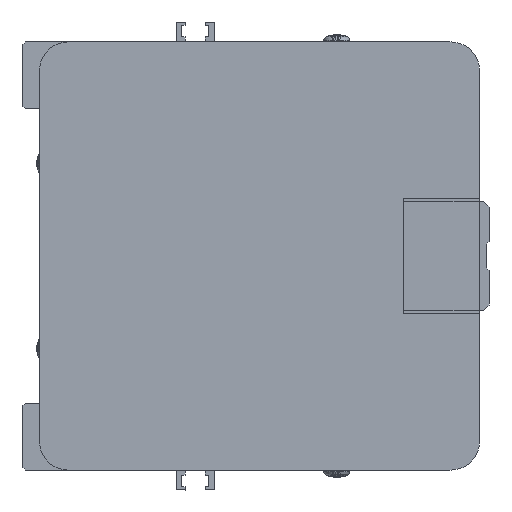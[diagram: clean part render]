
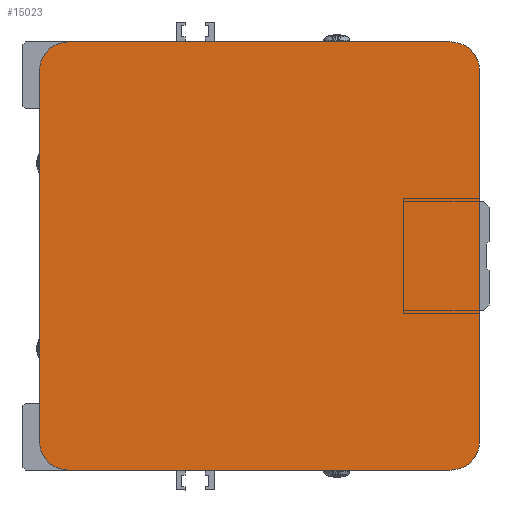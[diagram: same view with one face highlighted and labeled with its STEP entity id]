
A CAD part, left-side view. The second image highlights one B-rep face of the part: STEP entity #15023.
In plain terms, the highlighted planar face has unit normal (-1, 0, 0) as drawn and (0, 0, -1) by its records, which use the part's own axes.
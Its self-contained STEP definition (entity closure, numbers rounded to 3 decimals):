
#1183=CIRCLE('',#16015,6.);
#1185=CIRCLE('',#16020,6.);
#1186=CIRCLE('',#16026,6.);
#1187=CIRCLE('',#16028,6.);
#2086=FACE_OUTER_BOUND('',#2976,.T.);
#2976=EDGE_LOOP('',(#10502,#10503,#10504,#10505,#10506,#10507,#10508,#10509));
#4113=LINE('',#21526,#5358);
#4131=LINE('',#21565,#5376);
#4135=LINE('',#21577,#5380);
#4137=LINE('',#21584,#5382);
#5358=VECTOR('',#17595,78.);
#5376=VECTOR('',#17629,80.5);
#5380=VECTOR('',#17643,80.5);
#5382=VECTOR('',#17651,78.);
#6596=VERTEX_POINT('',#21520);
#6597=VERTEX_POINT('',#21524);
#6609=VERTEX_POINT('',#21562);
#6610=VERTEX_POINT('',#21564);
#6612=VERTEX_POINT('',#21573);
#6613=VERTEX_POINT('',#21575);
#6614=VERTEX_POINT('',#21579);
#6615=VERTEX_POINT('',#21583);
#8132=EDGE_CURVE('',#6597,#6596,#4113,.T.);
#8152=EDGE_CURVE('',#6609,#6610,#4131,.T.);
#8154=EDGE_CURVE('',#6610,#6597,#1183,.T.);
#8158=EDGE_CURVE('',#6613,#6612,#4135,.T.);
#8159=EDGE_CURVE('',#6612,#6614,#1185,.T.);
#8161=EDGE_CURVE('',#6614,#6615,#4137,.T.);
#8177=EDGE_CURVE('',#6615,#6609,#1186,.T.);
#8178=EDGE_CURVE('',#6596,#6613,#1187,.T.);
#10502=ORIENTED_EDGE('',*,*,#8159,.F.);
#10503=ORIENTED_EDGE('',*,*,#8158,.F.);
#10504=ORIENTED_EDGE('',*,*,#8178,.F.);
#10505=ORIENTED_EDGE('',*,*,#8132,.F.);
#10506=ORIENTED_EDGE('',*,*,#8154,.F.);
#10507=ORIENTED_EDGE('',*,*,#8152,.F.);
#10508=ORIENTED_EDGE('',*,*,#8177,.F.);
#10509=ORIENTED_EDGE('',*,*,#8161,.F.);
#14500=PLANE('',#16039);
#15023=ADVANCED_FACE('',(#2086),#14500,.T.);
#16015=AXIS2_PLACEMENT_3D('',#21568,#17633,#17634);
#16020=AXIS2_PLACEMENT_3D('',#21580,#17646,#17647);
#16026=AXIS2_PLACEMENT_3D('',#21612,#17675,#17676);
#16028=AXIS2_PLACEMENT_3D('',#21614,#17679,#17680);
#16039=AXIS2_PLACEMENT_3D('',#21633,#17706,#17707);
#17595=DIRECTION('',(1.,0.,0.));
#17629=DIRECTION('',(0.,-1.,0.));
#17633=DIRECTION('center_axis',(0.,0.,
1.));
#17634=DIRECTION('ref_axis',(-1.,0.,0.));
#17643=DIRECTION('',(0.,1.,0.));
#17646=DIRECTION('center_axis',(0.,0.,
1.));
#17647=DIRECTION('ref_axis',(1.,0.,0.));
#17651=DIRECTION('',(-1.,0.,0.));
#17675=DIRECTION('center_axis',(0.,0.,
1.));
#17676=DIRECTION('ref_axis',(0.,1.,0.));
#17679=DIRECTION('center_axis',(0.,0.,
1.));
#17680=DIRECTION('ref_axis',(0.,-1.,0.));
#17706=DIRECTION('center_axis',(0.,0.,
-1.));
#17707=DIRECTION('ref_axis',(0.545,-0.839,0.));
#21520=CARTESIAN_POINT('',(88.204,2.,-586.));
#21524=CARTESIAN_POINT('',(10.204,2.,-586.));
#21526=CARTESIAN_POINT('',(10.204,2.,-586.));
#21562=CARTESIAN_POINT('',(4.204,88.5,-586.));
#21564=CARTESIAN_POINT('',(4.204,8.,-586.));
#21565=CARTESIAN_POINT('',(4.204,88.5,-586.));
#21568=CARTESIAN_POINT('Origin',(10.204,8.,-586.));
#21573=CARTESIAN_POINT('',(94.204,88.5,-586.));
#21575=CARTESIAN_POINT('',(94.204,8.,-586.));
#21577=CARTESIAN_POINT('',(94.204,8.,-586.));
#21579=CARTESIAN_POINT('',(88.204,94.5,-586.));
#21580=CARTESIAN_POINT('Origin',(88.204,88.5,-586.));
#21583=CARTESIAN_POINT('',(10.204,94.5,-586.));
#21584=CARTESIAN_POINT('',(88.204,94.5,-586.));
#21612=CARTESIAN_POINT('Origin',(10.204,88.5,-586.));
#21614=CARTESIAN_POINT('Origin',(88.204,8.,-586.));
#21633=CARTESIAN_POINT('Origin',(49.204,26.,-586.));
